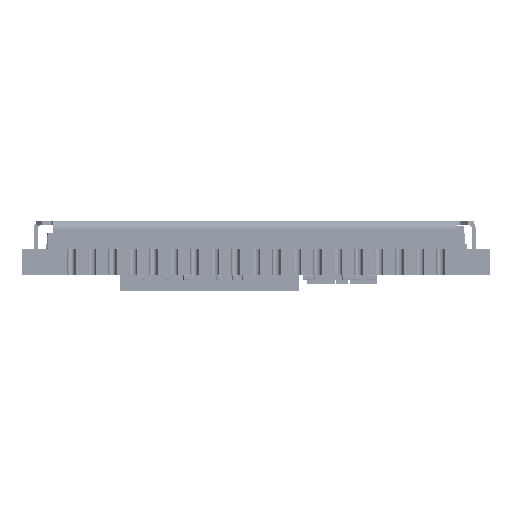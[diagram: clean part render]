
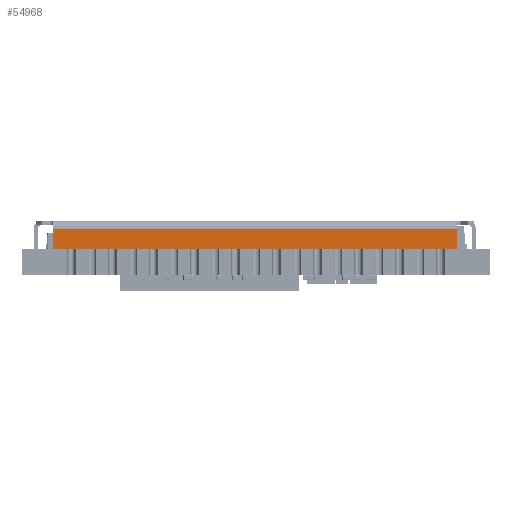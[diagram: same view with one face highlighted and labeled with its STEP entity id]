
A CAD part, front view. The second image highlights one B-rep face of the part: STEP entity #54968.
In plain terms, the highlighted planar face has unit normal (0, -1, 0) as drawn and (0, 0, 1) by its records, which use the part's own axes.
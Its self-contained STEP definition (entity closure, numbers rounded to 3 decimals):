
#54968 = ADVANCED_FACE('',(#54969),#54983,.F.);
#54969 = FACE_BOUND('',#54970,.F.);
#54970 = EDGE_LOOP('',(#54971,#55006,#55034,#55062));
#54971 = ORIENTED_EDGE('',*,*,#54972,.T.);
#54972 = EDGE_CURVE('',#54973,#54975,#54977,.T.);
#54973 = VERTEX_POINT('',#54974);
#54974 = CARTESIAN_POINT('',(12.5,1.25,13.7));
#54975 = VERTEX_POINT('',#54976);
#54976 = CARTESIAN_POINT('',(12.5,0.,13.7));
#54977 = SURFACE_CURVE('',#54978,(#54982,#54994),.PCURVE_S1.);
#54978 = LINE('',#54979,#54980);
#54979 = CARTESIAN_POINT('',(12.5,1.25,13.7));
#54980 = VECTOR('',#54981,1.);
#54981 = DIRECTION('',(0.,-1.,0.));
#54982 = PCURVE('',#54983,#54988);
#54983 = PLANE('',#54984);
#54984 = AXIS2_PLACEMENT_3D('',#54985,#54986,#54987);
#54985 = CARTESIAN_POINT('',(12.5,1.25,13.7));
#54986 = DIRECTION('',(0.,0.,-1.));
#54987 = DIRECTION('',(0.,-1.,0.));
#54988 = DEFINITIONAL_REPRESENTATION('',(#54989),#54993);
#54989 = LINE('',#54990,#54991);
#54990 = CARTESIAN_POINT('',(0.,0.));
#54991 = VECTOR('',#54992,1.);
#54992 = DIRECTION('',(1.,0.));
#54993 = ( GEOMETRIC_REPRESENTATION_CONTEXT(2) 
PARAMETRIC_REPRESENTATION_CONTEXT() REPRESENTATION_CONTEXT('2D SPACE',''
  ) );
#54994 = PCURVE('',#54995,#55000);
#54995 = PLANE('',#54996);
#54996 = AXIS2_PLACEMENT_3D('',#54997,#54998,#54999);
#54997 = CARTESIAN_POINT('',(12.5,0.625,13.575));
#54998 = DIRECTION('',(-1.,0.,0.));
#54999 = DIRECTION('',(0.,-1.,0.));
#55000 = DEFINITIONAL_REPRESENTATION('',(#55001),#55005);
#55001 = LINE('',#55002,#55003);
#55002 = CARTESIAN_POINT('',(-0.625,0.125));
#55003 = VECTOR('',#55004,1.);
#55004 = DIRECTION('',(1.,0.));
#55005 = ( GEOMETRIC_REPRESENTATION_CONTEXT(2) 
PARAMETRIC_REPRESENTATION_CONTEXT() REPRESENTATION_CONTEXT('2D SPACE',''
  ) );
#55006 = ORIENTED_EDGE('',*,*,#55007,.T.);
#55007 = EDGE_CURVE('',#54975,#55008,#55010,.T.);
#55008 = VERTEX_POINT('',#55009);
#55009 = CARTESIAN_POINT('',(-12.5,0.,13.7));
#55010 = SURFACE_CURVE('',#55011,(#55015,#55022),.PCURVE_S1.);
#55011 = LINE('',#55012,#55013);
#55012 = CARTESIAN_POINT('',(12.5,0.,13.7));
#55013 = VECTOR('',#55014,1.);
#55014 = DIRECTION('',(-1.,0.,0.));
#55015 = PCURVE('',#54983,#55016);
#55016 = DEFINITIONAL_REPRESENTATION('',(#55017),#55021);
#55017 = LINE('',#55018,#55019);
#55018 = CARTESIAN_POINT('',(1.25,0.));
#55019 = VECTOR('',#55020,1.);
#55020 = DIRECTION('',(0.,1.));
#55021 = ( GEOMETRIC_REPRESENTATION_CONTEXT(2) 
PARAMETRIC_REPRESENTATION_CONTEXT() REPRESENTATION_CONTEXT('2D SPACE',''
  ) );
#55022 = PCURVE('',#55023,#55028);
#55023 = PLANE('',#55024);
#55024 = AXIS2_PLACEMENT_3D('',#55025,#55026,#55027);
#55025 = CARTESIAN_POINT('',(0.,0.,13.575));
#55026 = DIRECTION('',(0.,1.,0.));
#55027 = DIRECTION('',(-1.,0.,0.));
#55028 = DEFINITIONAL_REPRESENTATION('',(#55029),#55033);
#55029 = LINE('',#55030,#55031);
#55030 = CARTESIAN_POINT('',(-12.5,0.125));
#55031 = VECTOR('',#55032,1.);
#55032 = DIRECTION('',(1.,0.));
#55033 = ( GEOMETRIC_REPRESENTATION_CONTEXT(2) 
PARAMETRIC_REPRESENTATION_CONTEXT() REPRESENTATION_CONTEXT('2D SPACE',''
  ) );
#55034 = ORIENTED_EDGE('',*,*,#55035,.F.);
#55035 = EDGE_CURVE('',#55036,#55008,#55038,.T.);
#55036 = VERTEX_POINT('',#55037);
#55037 = CARTESIAN_POINT('',(-12.5,1.25,13.7));
#55038 = SURFACE_CURVE('',#55039,(#55043,#55050),.PCURVE_S1.);
#55039 = LINE('',#55040,#55041);
#55040 = CARTESIAN_POINT('',(-12.5,1.25,13.7));
#55041 = VECTOR('',#55042,1.);
#55042 = DIRECTION('',(0.,-1.,0.));
#55043 = PCURVE('',#54983,#55044);
#55044 = DEFINITIONAL_REPRESENTATION('',(#55045),#55049);
#55045 = LINE('',#55046,#55047);
#55046 = CARTESIAN_POINT('',(0.,25.));
#55047 = VECTOR('',#55048,1.);
#55048 = DIRECTION('',(1.,0.));
#55049 = ( GEOMETRIC_REPRESENTATION_CONTEXT(2) 
PARAMETRIC_REPRESENTATION_CONTEXT() REPRESENTATION_CONTEXT('2D SPACE',''
  ) );
#55050 = PCURVE('',#55051,#55056);
#55051 = PLANE('',#55052);
#55052 = AXIS2_PLACEMENT_3D('',#55053,#55054,#55055);
#55053 = CARTESIAN_POINT('',(-12.5,0.625,13.575));
#55054 = DIRECTION('',(1.,0.,0.));
#55055 = DIRECTION('',(0.,1.,0.));
#55056 = DEFINITIONAL_REPRESENTATION('',(#55057),#55061);
#55057 = LINE('',#55058,#55059);
#55058 = CARTESIAN_POINT('',(0.625,0.125));
#55059 = VECTOR('',#55060,1.);
#55060 = DIRECTION('',(-1.,0.));
#55061 = ( GEOMETRIC_REPRESENTATION_CONTEXT(2) 
PARAMETRIC_REPRESENTATION_CONTEXT() REPRESENTATION_CONTEXT('2D SPACE',''
  ) );
#55062 = ORIENTED_EDGE('',*,*,#55063,.F.);
#55063 = EDGE_CURVE('',#54973,#55036,#55064,.T.);
#55064 = SURFACE_CURVE('',#55065,(#55069,#55076),.PCURVE_S1.);
#55065 = LINE('',#55066,#55067);
#55066 = CARTESIAN_POINT('',(12.5,1.25,13.7));
#55067 = VECTOR('',#55068,1.);
#55068 = DIRECTION('',(-1.,0.,0.));
#55069 = PCURVE('',#54983,#55070);
#55070 = DEFINITIONAL_REPRESENTATION('',(#55071),#55075);
#55071 = LINE('',#55072,#55073);
#55072 = CARTESIAN_POINT('',(0.,0.));
#55073 = VECTOR('',#55074,1.);
#55074 = DIRECTION('',(0.,1.));
#55075 = ( GEOMETRIC_REPRESENTATION_CONTEXT(2) 
PARAMETRIC_REPRESENTATION_CONTEXT() REPRESENTATION_CONTEXT('2D SPACE',''
  ) );
#55076 = PCURVE('',#55077,#55082);
#55077 = CYLINDRICAL_SURFACE('',#55078,0.5);
#55078 = AXIS2_PLACEMENT_3D('',#55079,#55080,#55081);
#55079 = CARTESIAN_POINT('',(-12.5,1.25,13.2));
#55080 = DIRECTION('',(-1.,0.,0.));
#55081 = DIRECTION('',(0.,1.,0.));
#55082 = DEFINITIONAL_REPRESENTATION('',(#55083),#55109);
#55083 = B_SPLINE_CURVE_WITH_KNOTS('',3,(#55084,#55085,#55086,#55087,
    #55088,#55089,#55090,#55091,#55092,#55093,#55094,#55095,#55096,
    #55097,#55098,#55099,#55100,#55101,#55102,#55103,#55104,#55105,
    #55106,#55107,#55108),.UNSPECIFIED.,.F.,.F.,(4,1,1,1,1,1,1,1,1,1,1,1
    ,1,1,1,1,1,1,1,1,1,1,4),(0.,1.136,2.273,
    3.409,4.545,5.682,6.818,
    7.955,9.091,10.227,11.364,12.5,
    13.636,14.773,15.909,17.045,
    18.182,19.318,20.455,21.591,
    22.727,23.864,25.),.QUASI_UNIFORM_KNOTS.);
#55084 = CARTESIAN_POINT('',(4.712,-25.));
#55085 = CARTESIAN_POINT('',(4.712,-24.621));
#55086 = CARTESIAN_POINT('',(4.712,-23.864));
#55087 = CARTESIAN_POINT('',(4.712,-22.727));
#55088 = CARTESIAN_POINT('',(4.712,-21.591));
#55089 = CARTESIAN_POINT('',(4.712,-20.455));
#55090 = CARTESIAN_POINT('',(4.712,-19.318));
#55091 = CARTESIAN_POINT('',(4.712,-18.182));
#55092 = CARTESIAN_POINT('',(4.712,-17.045));
#55093 = CARTESIAN_POINT('',(4.712,-15.909));
#55094 = CARTESIAN_POINT('',(4.712,-14.773));
#55095 = CARTESIAN_POINT('',(4.712,-13.636));
#55096 = CARTESIAN_POINT('',(4.712,-12.5));
#55097 = CARTESIAN_POINT('',(4.712,-11.364));
#55098 = CARTESIAN_POINT('',(4.712,-10.227));
#55099 = CARTESIAN_POINT('',(4.712,-9.091));
#55100 = CARTESIAN_POINT('',(4.712,-7.955));
#55101 = CARTESIAN_POINT('',(4.712,-6.818));
#55102 = CARTESIAN_POINT('',(4.712,-5.682));
#55103 = CARTESIAN_POINT('',(4.712,-4.545));
#55104 = CARTESIAN_POINT('',(4.712,-3.409));
#55105 = CARTESIAN_POINT('',(4.712,-2.273));
#55106 = CARTESIAN_POINT('',(4.712,-1.136));
#55107 = CARTESIAN_POINT('',(4.712,-0.379));
#55108 = CARTESIAN_POINT('',(4.712,0.));
#55109 = ( GEOMETRIC_REPRESENTATION_CONTEXT(2) 
PARAMETRIC_REPRESENTATION_CONTEXT() REPRESENTATION_CONTEXT('2D SPACE',''
  ) );
